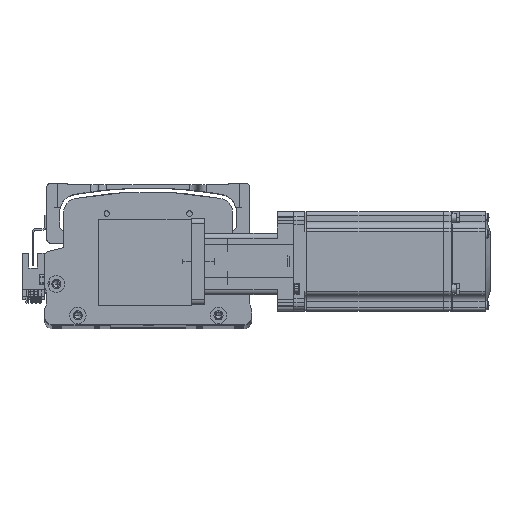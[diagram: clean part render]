
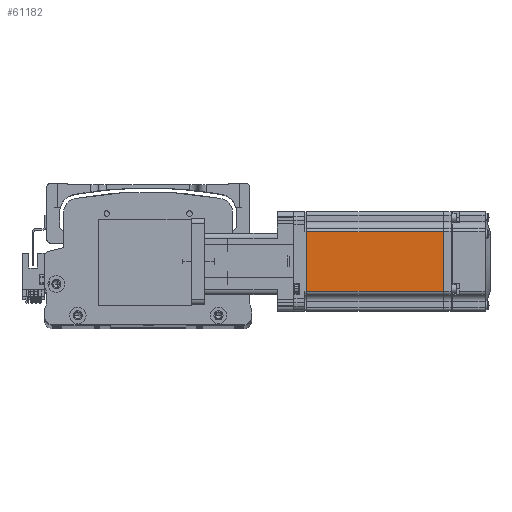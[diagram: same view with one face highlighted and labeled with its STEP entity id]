
A CAD part, top view. The second image highlights one B-rep face of the part: STEP entity #61182.
In plain terms, the highlighted planar face has unit normal (0, 0, 1) as drawn and (0, -1, 0) by its records, which use the part's own axes.
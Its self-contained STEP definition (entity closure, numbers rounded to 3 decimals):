
#3683 = CARTESIAN_POINT ( 'NONE',  ( -90.45, -30., 0. ) ) ;
#4532 = LINE ( 'NONE', #3683, #42083 ) ;
#4789 = DIRECTION ( 'NONE',  ( 0., 0., -1. ) ) ;
#12875 = LINE ( 'NONE', #42275, #61905 ) ;
#13244 = CARTESIAN_POINT ( 'NONE',  ( -7.75, -30., 18. ) ) ;
#13853 = CARTESIAN_POINT ( 'NONE',  ( -90.45, -30., -18. ) ) ;
#17009 = VECTOR ( 'NONE', #39905, 1000. ) ;
#18495 = CARTESIAN_POINT ( 'NONE',  ( -90.45, -30., 18. ) ) ;
#20470 = CARTESIAN_POINT ( 'NONE',  ( -6.5, -30., -18. ) ) ;
#21089 = FACE_OUTER_BOUND ( 'NONE', #51669, .T. ) ;
#21701 = EDGE_CURVE ( 'NONE', #26334, #25778, #12875, .T. ) ;
#24340 = LINE ( 'NONE', #60516, #61814 ) ;
#25778 = VERTEX_POINT ( 'NONE', #18495 ) ;
#26334 = VERTEX_POINT ( 'NONE', #13244 ) ;
#26840 = AXIS2_PLACEMENT_3D ( 'NONE', #63494, #34139, #4789 ) ;
#28746 = EDGE_CURVE ( 'NONE', #25778, #48192, #4532, .T. ) ;
#33293 = VERTEX_POINT ( 'NONE', #63469 ) ;
#33922 = PLANE ( 'NONE',  #26840 ) ;
#34139 = DIRECTION ( 'NONE',  ( 0., -1., 0. ) ) ;
#36595 = ORIENTED_EDGE ( 'NONE', *, *, #40795, .F. ) ;
#37749 = EDGE_CURVE ( 'NONE', #26334, #33293, #24340, .T. ) ;
#37922 = DIRECTION ( 'NONE',  ( 0., 0., -1. ) ) ;
#39905 = DIRECTION ( 'NONE',  ( -1., 0., 0. ) ) ;
#40549 = ORIENTED_EDGE ( 'NONE', *, *, #37749, .F. ) ;
#40795 = EDGE_CURVE ( 'NONE', #33293, #48192, #56018, .T. ) ;
#42083 = VECTOR ( 'NONE', #37922, 1000. ) ;
#42275 = CARTESIAN_POINT ( 'NONE',  ( -6.5, -30., 18. ) ) ;
#42505 = DIRECTION ( 'NONE',  ( -1., 0., 0. ) ) ;
#45238 = ORIENTED_EDGE ( 'NONE', *, *, #28746, .T. ) ;
#48192 = VERTEX_POINT ( 'NONE', #13853 ) ;
#51669 = EDGE_LOOP ( 'NONE', ( #40549, #61847, #45238, #36595 ) ) ;
#55576 = DIRECTION ( 'NONE',  ( 0., 0., -1. ) ) ;
#56018 = LINE ( 'NONE', #20470, #17009 ) ;
#60516 = CARTESIAN_POINT ( 'NONE',  ( -7.75, -30., 0. ) ) ;
#61182 = ADVANCED_FACE ( 'NONE', ( #21089 ), #33922, .T. ) ;
#61814 = VECTOR ( 'NONE', #55576, 1000. ) ;
#61847 = ORIENTED_EDGE ( 'NONE', *, *, #21701, .T. ) ;
#61905 = VECTOR ( 'NONE', #42505, 1000. ) ;
#63469 = CARTESIAN_POINT ( 'NONE',  ( -7.75, -30., -18. ) ) ;
#63494 = CARTESIAN_POINT ( 'NONE',  ( -6.5, -30., -25. ) ) ;
